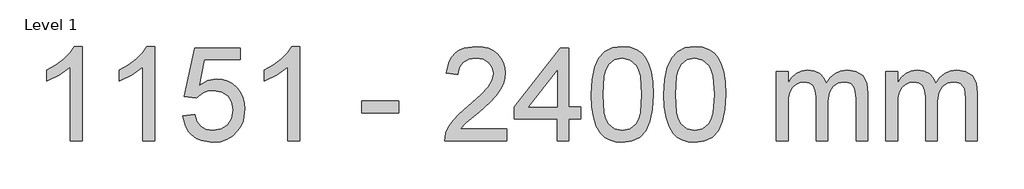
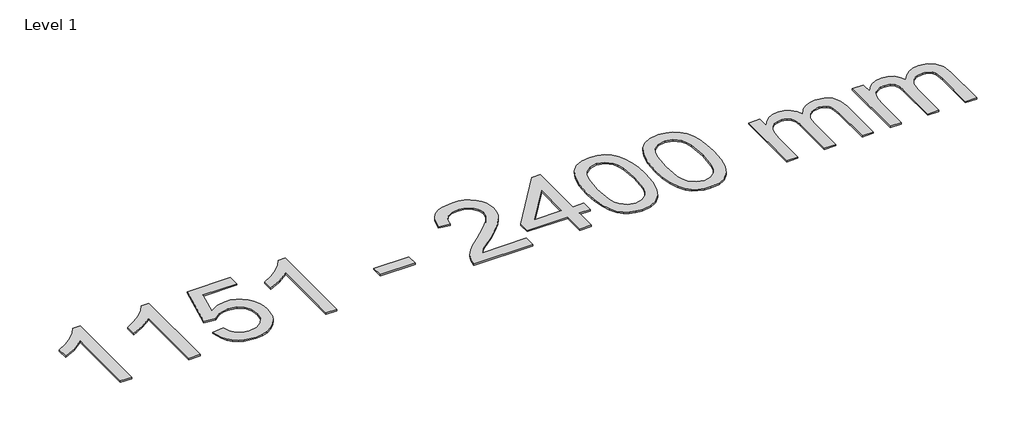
# One storey, part 36 of 69: 1 proxy.
"""IFC4 building model written with IfcOpenShell, lengths in millimetres."""

from ifc_helpers import new_model, si_unit, origin, origin_with_axes, place, context, project, spatial, polyline, outline, extrude, element, save

model = new_model("IFC4")

# Units and contexts
model_context = context("Model", 3, world=origin())
ifc_project = project(units=[si_unit("LENGTHUNIT", "METRE", prefix="MILLI")], contexts=[model_context])

# Site, building, storey
site = spatial("IfcSite", under=ifc_project)
building = spatial("IfcBuilding", under=site)
storey = spatial("IfcBuildingStorey", under=building, Name="Level 1", Elevation=0.0)

# Proxy
placement = place(None, origin())
element("IfcBuildingElementProxy", 1, Name="300mm Arial", ObjectType="300mm Arial", at=placement, inside=storey, context=model_context, shape_type="SweptSolid", body=[
    extrude(outline(polyline([(234353.0836482, -10390.4630087), (234315.4125318, -10390.4630087), (234315.4125318, -10155.6071429), (234279.7279783, -10181.0277888), (234240.0702992, -10200.047288), (234240.0702992, -10164.4363108), (234269.6572087, -10148.3414735), (234295.2893867, -10129.1932157), (234315.4953053, -10108.8309473), (234328.8034365, -10089.0940782), (234353.0836482, -10089.0940782), (234353.0836482, -10390.4630087)])), origin_with_axes(), (0.0, 0.0, 1.0), 5.0),
    extrude(outline(polyline([(234583.8192355, -10390.4630087), (234546.1481192, -10390.4630087), (234546.1481192, -10155.6071429), (234510.4635657, -10181.0277888), (234470.8058866, -10200.047288), (234470.8058866, -10164.4363108), (234500.3927961, -10148.3414735), (234526.0249741, -10129.1932157), (234546.2308927, -10108.8309473), (234559.5390238, -10089.0940782), (234583.8192355, -10089.0940782), (234583.8192355, -10390.4630087)])), origin_with_axes(), (0.0, 0.0, 1.0), 5.0),
    extrude(outline(polyline([(234673.2881368, -10310.4118865), (234710.9592531, -10305.702997), (234717.8754346, -10328.3185426), (234729.941964, -10344.5145475), (234747.1036591, -10354.2542233), (234769.3053375, -10357.5007819), (234796.3078759, -10352.9850304), (234816.5413857, -10339.4377759), (234829.1781322, -10318.422517), (234833.3903811, -10291.502752), (234829.4448467, -10266.1556825), (234817.6082435, -10246.7683013), (234797.788601, -10234.4626486), (234769.8939487, -10230.3607644), (234751.6194106, -10231.9978392), (234736.8213573, -10236.9090639), (234715.6681426, -10253.9052121), (234677.9970263, -10249.1963225), (234710.9592531, -10093.8029678), (234856.9348287, -10093.8029678), (234856.9348287, -10131.4740841), (234741.4198823, -10131.4740841), (234725.3066509, -10214.4682622), (234752.2172188, -10198.1343016), (234780.4153738, -10192.6896481), (234798.761189, -10194.3773067), (234815.6124836, -10199.4402827), (234830.9692577, -10207.8785759), (234844.8315111, -10219.6921865), (234856.3071301, -10234.159146), (234864.5040008, -10250.5574859), (234869.4221232, -10268.8872063), (234871.0614974, -10289.1483072), (234865.1569913, -10326.8194235), (234857.7763588, -10343.6132366), (234847.4434733, -10359.0458863), (234831.7900944, -10374.8510165), (234813.5247533, -10386.1403952), (234792.6474501, -10392.9140225), (234769.1581847, -10395.1718982), (234732.158453, -10389.3685597), (234716.4797823, -10382.1143866), (234702.6819082, -10371.9585443), (234691.2016907, -10359.4068705), (234682.4759896, -10344.9652029), (234673.2881368, -10310.4118865)])), origin_with_axes(), (0.0, 0.0, 1.0), 5.0),
    extrude(outline(polyline([(235045.2904103, -10390.4630087), (235007.619294, -10390.4630087), (235007.619294, -10155.6071429), (234971.9347404, -10181.0277888), (234932.2770614, -10200.047288), (234932.2770614, -10164.4363108), (234961.8639708, -10148.3414735), (234987.4961488, -10129.1932157), (235007.7020674, -10108.8309473), (235021.0101986, -10089.0940782), (235045.2904103, -10089.0940782), (235045.2904103, -10390.4630087)])), origin_with_axes(), (0.0, 0.0, 1.0), 5.0),
    extrude(outline(polyline([(235243.0637709, -10300.9941074), (235243.0637709, -10263.3229911), (235360.7860093, -10263.3229911), (235360.7860093, -10300.9941074), (235243.0637709, -10300.9941074)])), origin_with_axes(), (0.0, 0.0, 1.0), 5.0),
    extrude(outline(polyline([(235704.5349456, -10352.7918924), (235704.5349456, -10390.4630087), (235506.761585, -10390.4630087), (235510.808287, -10364.4905398), (235520.0973074, -10344.1926507), (235533.6905471, -10324.5017669), (235553.3538397, -10303.8911781), (235580.8530189, -10280.8341741), (235621.5039793, -10244.7265563), (235645.8945556, -10218.0735057), (235658.0898437, -10196.4420444), (235662.1549398, -10175.3991943), (235658.31977, -10156.536045), (235646.8142606, -10140.8550749), (235629.1283337, -10130.2876646), (235606.7519113, -10126.7651945), (235583.2534489, -10130.2048912), (235564.9973049, -10140.5239811), (235553.215884, -10156.913124), (235549.1415909, -10178.5629794), (235511.4704746, -10173.8540899), (235520.6031451, -10137.4153783), (235529.1495037, -10122.8794409), (235540.3492112, -10110.7991159), (235553.9447502, -10101.3031619), (235569.6786033, -10094.5203376), (235607.5612517, -10089.0940782), (235627.7510755, -10090.6023944), (235645.7198117, -10095.1273429), (235661.4674603, -10102.6689238), (235674.9940214, -10113.2271371), (235685.8580366, -10126.0202335), (235693.6180474, -10140.2664637), (235698.2740539, -10155.9658279), (235699.8260561, -10173.1183259), (235698.152193, -10191.1353466), (235693.1306038, -10208.8396676), (235684.2186625, -10226.8474913), (235670.8737431, -10245.77502), (235649.6009667, -10268.3721715), (235616.9054544, -10297.3888639), (235573.5689554, -10333.6252404), (235556.5728072, -10352.7918924), (235704.5349456, -10352.7918924)])), origin_with_axes(), (0.0, 0.0, 1.0), 5.0),
    extrude(outline(polyline([(235864.6371899, -10390.4630087), (235864.6371899, -10319.8296656), (235728.0793933, -10319.8296656), (235728.0793933, -10282.1585493), (235874.054969, -10093.8029678), (235902.3083062, -10093.8029678), (235902.3083062, -10282.1585493), (235939.9794225, -10282.1585493), (235939.9794225, -10319.8296656), (235902.3083062, -10319.8296656), (235902.3083062, -10390.4630087), (235864.6371899, -10390.4630087)]), holes=[polyline([(235864.6371899, -10282.1585493), (235864.6371899, -10165.760686), (235774.4325247, -10282.1585493), (235864.6371899, -10282.1585493)])]), origin_with_axes(), (0.0, 0.0, 1.0), 5.0),
    extrude(outline(polyline([(235972.9416493, -10242.2065646), (235975.7099613, -10193.968038), (235984.0148974, -10155.4967783), (235997.773684, -10126.2041745), (236016.9035477, -10105.5016152), (236041.5424444, -10093.1959625), (236071.8283296, -10089.0940782), (236095.0416835, -10091.5220994), (236115.8270162, -10098.8061629), (236133.2094405, -10110.6611602), (236146.214069, -10126.8019827), (236156.0365183, -10147.0906748), (236163.8724048, -10171.3892805), (236169.0043586, -10202.2453829), (236170.7150099, -10242.2065646), (236167.9742891, -10290.1691797), (236159.7521265, -10328.5484689), (236146.0761133, -10357.8686639), (236126.9738407, -10378.6539966), (236102.2797618, -10391.0424228), (236071.8283296, -10395.1718982), (236051.0797851, -10393.3784735), (236032.6856853, -10387.9981993), (236016.6460303, -10379.0310757), (236002.9608201, -10366.4771026), (235989.8274329, -10343.783382), (235980.446442, -10315.5070521), (235974.8178475, -10281.648113), (235972.9416493, -10242.2065646)]), holes=[polyline([(236010.6127656, -10242.1329882), (236015.0273496, -10301.3895806), (236020.5455795, -10321.6575793), (236028.2711014, -10335.6853796), (236047.9895763, -10352.0469313), (236071.8283296, -10357.5007819), (236095.6670829, -10352.0285372), (236115.3855578, -10335.6118032), (236123.1110797, -10321.5610102), (236128.6293097, -10301.2976101), (236133.0438936, -10242.1329882), (236128.7764625, -10184.2099681), (236123.4421735, -10164.008648), (236115.974169, -10149.6474546), (236096.2924823, -10132.4857595), (236071.3868712, -10126.7651945), (236047.8056353, -10131.8051779), (236028.8597126, -10146.9251279), (236020.8766733, -10162.5601127), (236015.1745024, -10183.639751), (236010.6127656, -10242.1329882)])]), origin_with_axes(), (0.0, 0.0, 1.0), 5.0),
    extrude(outline(polyline([(236203.6772367, -10242.2065646), (236206.4455487, -10193.968038), (236214.7504847, -10155.4967783), (236228.5092714, -10126.2041745), (236247.6391351, -10105.5016152), (236272.2780317, -10093.1959625), (236302.563917, -10089.0940782), (236325.7772709, -10091.5220994), (236346.5626036, -10098.8061629), (236363.9450279, -10110.6611602), (236376.9496564, -10126.8019827), (236386.7721057, -10147.0906748), (236394.6079922, -10171.3892805), (236399.739946, -10202.2453829), (236401.4505973, -10242.2065646), (236398.7098764, -10290.1691797), (236390.4877138, -10328.5484689), (236376.8117007, -10357.8686639), (236357.7094281, -10378.6539966), (236333.0153491, -10391.0424228), (236302.563917, -10395.1718982), (236281.8153725, -10393.3784735), (236263.4212727, -10387.9981993), (236247.3816177, -10379.0310757), (236233.6964075, -10366.4771026), (236220.5630203, -10343.783382), (236211.1820294, -10315.5070521), (236205.5534349, -10281.648113), (236203.6772367, -10242.2065646)]), holes=[polyline([(236241.348353, -10242.1329882), (236245.7629369, -10301.3895806), (236251.2811669, -10321.6575793), (236259.0066888, -10335.6853796), (236278.7251637, -10352.0469313), (236302.563917, -10357.5007819), (236326.4026703, -10352.0285372), (236346.1211452, -10335.6118032), (236353.8466671, -10321.5610102), (236359.364897, -10301.2976101), (236363.779481, -10242.1329882), (236359.5120498, -10184.2099681), (236354.1777609, -10164.008648), (236346.7097564, -10149.6474546), (236327.0280697, -10132.4857595), (236302.1224586, -10126.7651945), (236278.5412227, -10131.8051779), (236259.5953, -10146.9251279), (236251.6122607, -10162.5601127), (236245.9100897, -10183.639751), (236241.348353, -10242.1329882)])]), origin_with_axes(), (0.0, 0.0, 1.0), 5.0),
    extrude(outline(polyline([(236561.5528416, -10390.4630087), (236561.5528416, -10169.1452004), (236599.2239579, -10169.1452004), (236599.2239579, -10205.5655179), (236610.5547234, -10188.8360842), (236625.1228504, -10175.7302881), (236642.4316982, -10167.2598051), (236661.9846263, -10164.4363108), (236682.9355059, -10167.3149874), (236699.729319, -10175.9510173), (236712.274095, -10189.7741832), (236720.4778635, -10208.2142683), (236734.209059, -10189.0614119), (236749.8716349, -10175.3808002), (236767.4655913, -10167.1724332), (236786.9909282, -10164.4363108), (236815.3086448, -10168.9888505), (236836.2503274, -10182.6464696), (236849.1905766, -10205.77705), (236853.503993, -10238.7484739), (236853.503993, -10390.4630087), (236815.8328767, -10390.4630087), (236815.8328767, -10254.9352816), (236812.3379977, -10223.4813711), (236807.4267731, -10214.808553), (236799.6828571, -10207.9935391), (236789.7224521, -10203.5789551), (236778.1617604, -10202.1074271), (236757.7535067, -10205.8782176), (236741.1160434, -10217.1905889), (236730.0519924, -10236.8170934), (236726.3639754, -10265.5302831), (236726.3639754, -10390.4630087), (236688.6928591, -10390.4630087), (236688.6928591, -10250.7414269), (236686.5131583, -10229.4410594), (236679.9740558, -10214.247533), (236668.4685464, -10205.1424536), (236651.3896248, -10202.1074271), (236636.8766801, -10204.1307781), (236623.5041696, -10210.200831), (236612.4677097, -10220.1704331), (236604.962917, -10233.8924315), (236600.6586977, -10252.9303248), (236599.2239579, -10278.8476113), (236599.2239579, -10390.4630087), (236561.5528416, -10390.4630087)])), origin_with_axes(), (0.0, 0.0, 1.0), 5.0),
    extrude(outline(polyline([(236910.0106674, -10390.4630087), (236910.0106674, -10169.1452004), (236947.6817837, -10169.1452004), (236947.6817837, -10205.5655179), (236959.0125492, -10188.8360842), (236973.5806762, -10175.7302881), (236990.8895241, -10167.2598051), (237010.4424521, -10164.4363108), (237031.3933317, -10167.3149874), (237048.1871448, -10175.9510173), (237060.7319209, -10189.7741832), (237068.9356893, -10208.2142683), (237082.6668848, -10189.0614119), (237098.3294608, -10175.3808002), (237115.9234172, -10167.1724332), (237135.4487541, -10164.4363108), (237163.7664707, -10168.9888505), (237184.7081532, -10182.6464696), (237197.6484024, -10205.77705), (237201.9618188, -10238.7484739), (237201.9618188, -10390.4630087), (237164.2907025, -10390.4630087), (237164.2907025, -10254.9352816), (237160.7958235, -10223.4813711), (237155.8845989, -10214.808553), (237148.1406829, -10207.9935391), (237138.1802779, -10203.5789551), (237126.6195862, -10202.1074271), (237106.2113325, -10205.8782176), (237089.5738693, -10217.1905889), (237078.5098183, -10236.8170934), (237074.8218013, -10265.5302831), (237074.8218013, -10390.4630087), (237037.150685, -10390.4630087), (237037.150685, -10250.7414269), (237034.9709841, -10229.4410594), (237028.4318817, -10214.247533), (237016.9263723, -10205.1424536), (236999.8474507, -10202.1074271), (236985.3345059, -10204.1307781), (236971.9619954, -10210.200831), (236960.9255356, -10220.1704331), (236953.4207429, -10233.8924315), (236949.1165235, -10252.9303248), (236947.6817837, -10278.8476113), (236947.6817837, -10390.4630087), (236910.0106674, -10390.4630087)])), origin_with_axes(), (0.0, 0.0, 1.0), 5.0),
])

save(model, "model.ifc")
